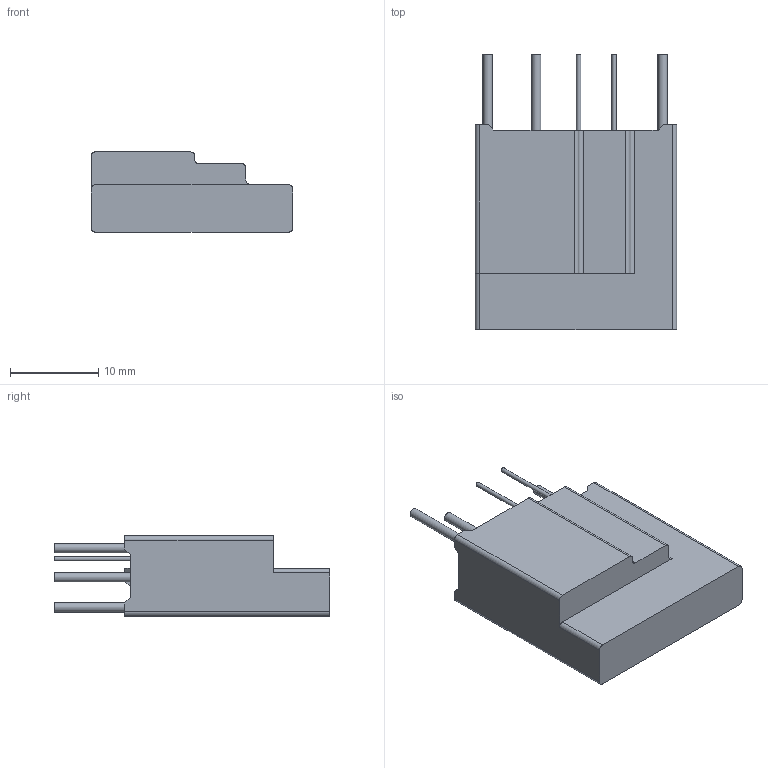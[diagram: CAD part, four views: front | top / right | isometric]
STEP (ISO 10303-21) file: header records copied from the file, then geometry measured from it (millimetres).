
FILE_DESCRIPTION(/* description */ ('Unknown'),/* implementation_level */ '2;1');
FILE_NAME(/* name */ 'TFMOV20S101-IT-5-001',/* time_stamp */ '2024-06-24T17:20:12+08:00',/* author */ ('Unknown'),/* organization */ ('Unknown'),/* preprocessor_version */ 'ST-DEVELOPER v16.7',/* originating_system */ 'Solid Edge',/* authorisation */ 'Unknown');
FILE_SCHEMA (('AUTOMOTIVE_DESIGN {1 0 10303 214 3 1 1}'));
Length unit declared in the file: millimetre
Products named in the file (1): TFMOV20S101-IT-5-001
Bounding box: 22.8 x 31.2 x 9.1 mm (x, y, z)
Volume: 1326.5 mm3; surface area: 3331.4 mm2
Topology: 1 solids, 2 shells, 105 faces, 287 edges, 191 vertices
Faces by surface type: plane 80, cylinder 25
Full cylindrical faces by diameter (mm): 0.5 x2, 1.05 x3
Entity records: 3298 total; most frequent: CARTESIAN_POINT 577, ORIENTED_EDGE 562, DIRECTION 544, EDGE_CURVE 281, LINE 230, VECTOR 230, VERTEX_POINT 190, AXIS2_PLACEMENT_3D 157
